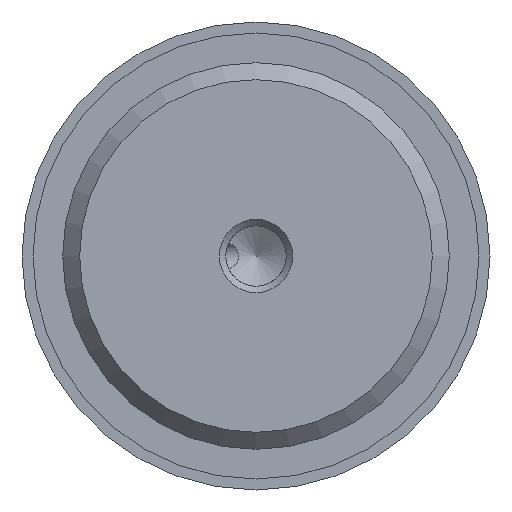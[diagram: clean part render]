
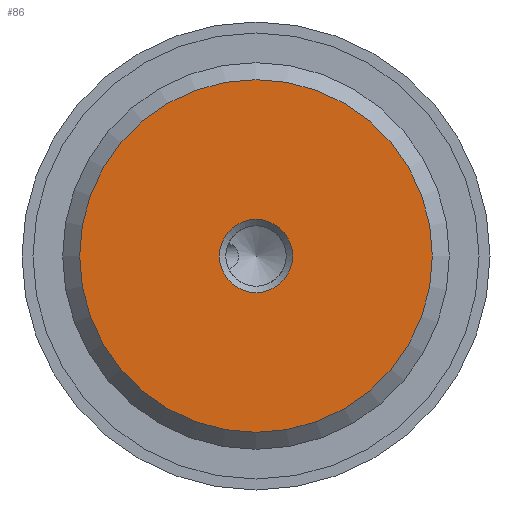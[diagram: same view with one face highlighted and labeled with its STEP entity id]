
A CAD part, front view. The second image highlights one B-rep face of the part: STEP entity #86.
In plain terms, the highlighted planar face has unit normal (0, -1, 0).
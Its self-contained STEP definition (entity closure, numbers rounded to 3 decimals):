
#86 = ADVANCED_FACE( '', ( #139, #140 ), #141, .F. );
#139 = FACE_BOUND( '', #226, .T. );
#140 = FACE_OUTER_BOUND( '', #227, .T. );
#141 = PLANE( '', #228 );
#226 = EDGE_LOOP( '', ( #382 ) );
#227 = EDGE_LOOP( '', ( #383 ) );
#228 = AXIS2_PLACEMENT_3D( '', #384, #385, #386 );
#382 = ORIENTED_EDGE( '', *, *, #582, .F. );
#383 = ORIENTED_EDGE( '', *, *, #584, .T. );
#384 = CARTESIAN_POINT( '', ( 12.059, 0., 0. ) );
#385 = DIRECTION( '', ( 0., 1., 0. ) );
#386 = DIRECTION( '', ( 0., 0., 1. ) );
#582 = EDGE_CURVE( '', #683, #683, #684, .T. );
#584 = EDGE_CURVE( '', #687, #687, #688, .T. );
#683 = VERTEX_POINT( '', #928 );
#684 = CIRCLE( '', #929, 2.5 );
#687 = VERTEX_POINT( '', #932 );
#688 = CIRCLE( '', #933, 12.059 );
#928 = CARTESIAN_POINT( '', ( 2.5, 0., 0. ) );
#929 = AXIS2_PLACEMENT_3D( '', #1036, #1037, #1038 );
#932 = CARTESIAN_POINT( '', ( 0., 0., -12.059 ) );
#933 = AXIS2_PLACEMENT_3D( '', #1042, #1043, #1044 );
#1036 = CARTESIAN_POINT( '', ( 0., 0., 0. ) );
#1037 = DIRECTION( '', ( 0., -1., 0. ) );
#1038 = DIRECTION( '', ( 1., 0., 0. ) );
#1042 = CARTESIAN_POINT( '', ( 0., 0., 0. ) );
#1043 = DIRECTION( '', ( 0., -1., 0. ) );
#1044 = DIRECTION( '', ( 0., 0., -1. ) );
